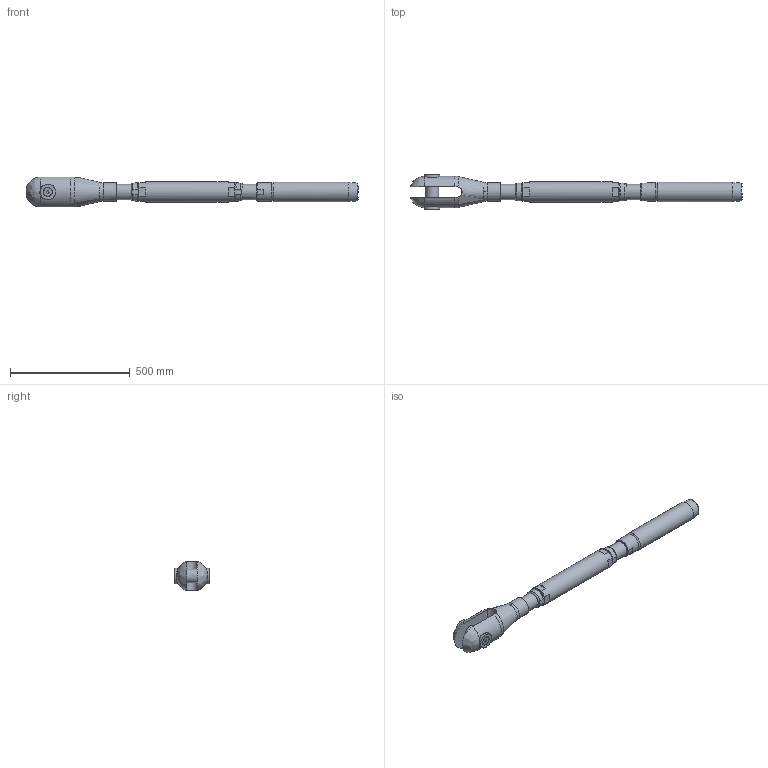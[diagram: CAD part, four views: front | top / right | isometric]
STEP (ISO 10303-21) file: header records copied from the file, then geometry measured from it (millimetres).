
FILE_DESCRIPTION(/* description */ (''),/* implementation_level */ '2;1');
FILE_NAME(/* name */ 'TBC 42_42CrMo4',/* time_stamp */ '2023-05-23T18:16:55+02:00',/* author */ (''),/* organization */ (''),/* preprocessor_version */ 'ST-DEVELOPER v16.5',/* originating_system */ 'Rhino 7.22',/* authorisation */ '');
FILE_SCHEMA (('CONFIG_CONTROL_DESIGN'));
Length unit declared in the file: millimetre
Products named in the file (1): Document
Bounding box: 1385.15 x 143.57 x 124.45 mm (x, y, z)
Volume: 7350026.3 mm3; surface area: 667308.5 mm2
Topology: 10 solids, 10 shells, 142 faces, 389 edges, 269 vertices
Faces by surface type: plane 65, bspline 42, cylinder 35
Full cylindrical faces by diameter (mm): 17.294 x2, 20 x2, 21 x2, 35.4 x2, 57 x1, 58 x2, 60.752 x4, 64 x2, 65 x2, 68 x1, 77 x2, 81 x1, 84 x1
Entity records: 6085 total; most frequent: CARTESIAN_POINT 3626, ORIENTED_EDGE 770, EDGE_CURVE 385, VERTEX_POINT 269, EDGE_LOOP 162, B_SPLINE_CURVE_WITH_KNOTS 159, ADVANCED_FACE 142, FACE_OUTER_BOUND 142
